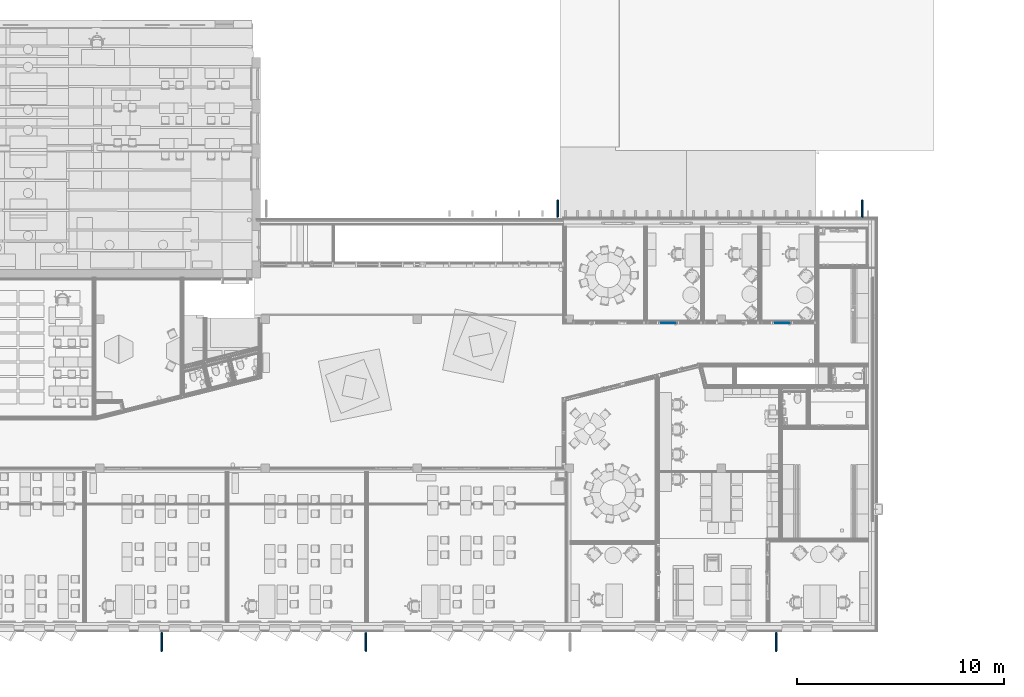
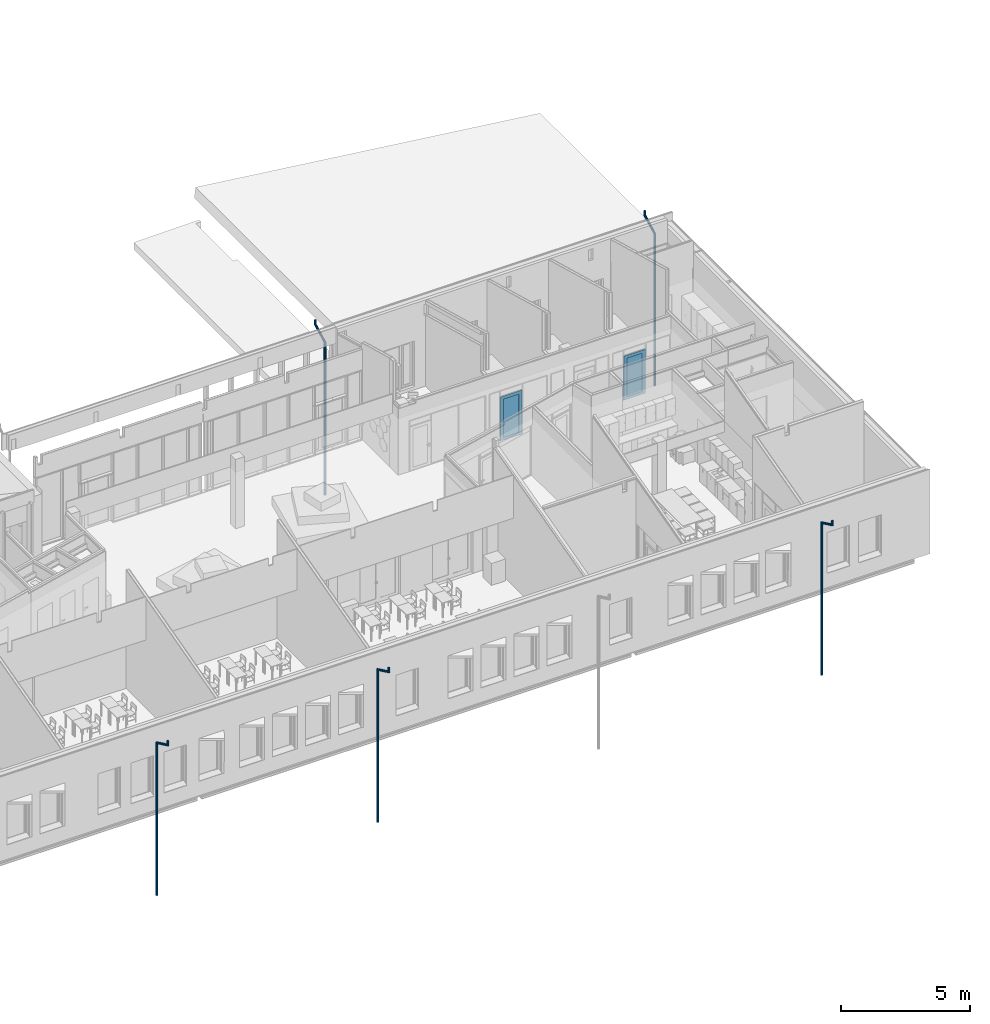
# One storey, part 9 of 153: 5 discrete accessories, 4 building element parts, 4 elements without a shape of their own.
"""IFC2X3 building model written with IfcOpenShell, lengths in millimetres."""

from ifc_helpers import new_model, entity, si_unit, converted_unit, derived_unit, money_unit, direction, frame, origin_with_axes, place, context, subcontext, project, spatial, open_shell, faceted_brep, surface_model, source, transform, mapped, material, type_object, element, aggregate, save


model = new_model("IFC2X3")

# Units and contexts
model_context = context("Model", 3, precision=0.01, world=origin_with_axes(), true_north=direction((0.0, 1.0)))
body_context = subcontext(model_context, "Body", "Model", "MODEL_VIEW")
ifc_project = project(units=[si_unit("LENGTHUNIT", "METRE", prefix="MILLI"), si_unit("AREAUNIT", "SQUARE_METRE"), si_unit("VOLUMEUNIT", "CUBIC_METRE"), converted_unit("PLANEANGLEUNIT", "DEGREE", entity("IfcPlaneAngleMeasure", 0.0174532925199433), si_unit("PLANEANGLEUNIT", "RADIAN"), dimensions=[0, 0, 0, 0, 0, 0, 0]), money_unit("EUR"), converted_unit("TIMEUNIT", "Year", entity("IfcTimeMeasure", 31557600.0), si_unit("TIMEUNIT", "SECOND"), dimensions=[0, 0, 1, 0, 0, 0, 0]), si_unit("MASSUNIT", "GRAM", prefix="KILO"), si_unit("THERMODYNAMICTEMPERATUREUNIT", "DEGREE_CELSIUS"), si_unit("LUMINOUSINTENSITYUNIT", "LUMEN"), si_unit("ENERGYUNIT", "JOULE", prefix="MEGA"), derived_unit("THERMALCONDUCTANCEUNIT", [(si_unit("POWERUNIT", "WATT"), 1), (si_unit("LENGTHUNIT", "METRE"), -1), (si_unit("THERMODYNAMICTEMPERATUREUNIT", "KELVIN"), -1)]), derived_unit("SPECIFICHEATCAPACITYUNIT", [(si_unit("ENERGYUNIT", "JOULE"), 1), (si_unit("MASSUNIT", "GRAM", prefix="KILO"), -1), (si_unit("THERMODYNAMICTEMPERATUREUNIT", "KELVIN"), -1)]), derived_unit("MASSDENSITYUNIT", [(si_unit("MASSUNIT", "GRAM", prefix="KILO"), 1), (si_unit("VOLUMEUNIT", "CUBIC_METRE"), -1)])], contexts=[model_context])

# Site, building, storey
site_placement = place(None, frame((0.0, 0.0, 8650.0), z_axis=(0.0, 0.0, 1.0), x_axis=(1.0, 0.0, 0.0)))
site = spatial("IfcSite", under=ifc_project, at=site_placement, Name="43301:001:0844", CompositionType="ELEMENT")
building_placement = place(site_placement, origin_with_axes())
building = spatial("IfcBuilding", under=site, at=building_placement, Name="Kuressaare Ametikooli tuulikute mehaanikute õppekorpus", CompositionType="ELEMENT")
storey_placement = place(building_placement, frame((0.0, 0.0, 4100.0), z_axis=(0.0, 0.0, 1.0), x_axis=(1.0, 0.0, 0.0)))
storey = spatial("IfcBuildingStorey", under=building, at=storey_placement, Name="2.korrus", CompositionType="ELEMENT", Elevation=4100.0)

# Discrete accessories
discrete_accessory_type = type_object("IfcDiscreteAccessoryType", Name="Downspout Complex 27")
shared_shape_1 = source(origin_with_axes(), body_context, "Body", "SurfaceModel", [
    surface_model("IfcShellBasedSurfaceModel", [(50.0, 0.0, 7000.949244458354), (46.19397662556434, -19.13417161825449, 7000.949244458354), (46.19397662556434, -19.13417161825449, 0.0), (50.0, 0.0, 0.0), (35.35533905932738, -35.35533905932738, 7000.949244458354), (35.35533905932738, -35.35533905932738, 0.0), (46.19397662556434, 19.13417161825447, 7000.949244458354), (46.19397662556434, 19.13417161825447, 0.0), (19.13417161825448, -46.19397662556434, 7000.949244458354), (19.13417161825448, -46.19397662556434, 0.0), (35.35533905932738, 35.35533905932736, 7000.949244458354), (35.35533905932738, 35.35533905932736, 0.0), (0.0, -50.0, 7000.949244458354), (0.0, -50.0, 0.0), (19.13417161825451, 46.19397662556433, 7000.949244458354), (19.13417161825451, 46.19397662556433, 0.0), (-19.13417161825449, -46.19397662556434, 7000.949244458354), (-19.13417161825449, -46.19397662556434, 0.0), (0.0, 50.0, 7000.949244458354), (0.0, 50.0, 0.0), (-35.35533905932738, -35.35533905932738, 7000.949244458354), (-35.35533905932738, -35.35533905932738, 0.0), (-19.13417161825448, 46.19397662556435, 7000.949244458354), (-19.13417161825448, 46.19397662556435, 0.0), (-46.19397662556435, -19.13417161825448, 7000.949244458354), (-46.19397662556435, -19.13417161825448, 0.0), (-35.35533905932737, 35.35533905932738, 7000.949244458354), (-35.35533905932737, 35.35533905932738, 0.0), (-50.0, 0.0, 7000.949244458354), (-50.0, 0.0, 0.0), (-46.19397662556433, 19.1341716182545, 7000.949244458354), (-46.19397662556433, 19.1341716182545, 0.0)], [open_shell([[[0, 1, 2, 3]], [[1, 4, 5, 2]], [[6, 0, 3, 7]], [[4, 8, 9, 5]], [[10, 6, 7, 11]], [[8, 12, 13, 9]], [[14, 10, 11, 15]], [[12, 16, 17, 13]], [[18, 14, 15, 19]], [[16, 20, 21, 17]], [[22, 18, 19, 23]], [[20, 24, 25, 21]], [[26, 22, 23, 27]], [[24, 28, 29, 25]], [[30, 26, 27, 31]], [[28, 30, 31, 29]]])]),
    surface_model("IfcShellBasedSurfaceModel", [(-50.0, -839.0000000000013, 7800.949244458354), (-46.19397662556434, -819.8658283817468, 7800.949244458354), (-46.19397662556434, -819.8658283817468, 7613.024377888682), (-50.0, -839.0000000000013, 7600.949244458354), (-35.35533905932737, -803.6446609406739, 7800.949244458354), (-35.35533905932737, -803.6446609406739, 7623.2611817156), (-46.19397662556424, 19.13417161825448, 7213.024377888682), (-49.9999999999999, 0.0, 7200.949244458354), (-46.19397662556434, -858.1341716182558, 7800.949244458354), (-46.19397662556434, -858.1341716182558, 7588.874111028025), (-19.13417161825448, -792.8060233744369, 7800.949244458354), (-19.13417161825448, -792.8060233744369, 7630.101195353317), (-35.35533905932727, 35.35533905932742, 7223.261181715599), (-46.19397662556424, 19.13417161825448, 7000.949244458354), (-49.9999999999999, 0.0, 7000.949244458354), (-46.19397662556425, -19.13417161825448, 7188.874111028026), (-35.35533905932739, -874.3553390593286, 7800.949244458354), (-35.35533905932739, -874.3553390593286, 7578.637307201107), (0.0, -789.0000000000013, 7800.949244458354), (0.0, -789.0000000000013, 7632.503088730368), (-19.13417161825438, 46.19397662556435, 7230.101195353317), (-35.35533905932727, 35.35533905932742, 7000.949244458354), (-46.19397662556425, -19.13417161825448, 7000.949244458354), (-35.35533905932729, -35.35533905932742, 7178.637307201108), (-19.13417161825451, -885.1939766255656, 7800.949244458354), (-19.13417161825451, -885.1939766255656, 7571.797293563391), (19.1341716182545, -792.8060233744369, 7800.949244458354), (19.1341716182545, -792.8060233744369, 7630.101195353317), (0.0, 50.00000000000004, 7232.503088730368), (-19.13417161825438, 46.19397662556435, 7000.949244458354), (-35.35533905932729, -35.35533905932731, 7000.949244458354), (-19.13417161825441, -46.19397662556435, 7171.797293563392), (0.0, -889.0000000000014, 7800.949244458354), (0.0, -889.0000000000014, 7569.395400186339), (35.35533905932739, -803.6446609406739, 7800.949244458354), (35.35533905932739, -803.6446609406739, 7623.2611817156), (19.1341716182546, 46.19397662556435, 7230.101195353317), (0.0, 50.00000000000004, 7000.949244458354), (-19.13417161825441, -46.19397662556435, 7000.949244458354), (0.0, -50.00000000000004, 7169.395400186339), (19.13417161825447, -885.1939766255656, 7800.949244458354), (19.13417161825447, -885.1939766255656, 7571.797293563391), (46.19397662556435, -819.8658283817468, 7800.949244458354), (46.19397662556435, -819.8658283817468, 7613.024377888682), (35.35533905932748, 35.35533905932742, 7223.261181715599), (19.1341716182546, 46.19397662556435, 7000.949244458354), (0.0, -50.00000000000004, 7000.949244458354), (19.13417161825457, -46.19397662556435, 7171.797293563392), (35.35533905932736, -874.3553390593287, 7800.949244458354), (35.35533905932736, -874.3553390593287, 7578.637307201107), (50.0, -839.0000000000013, 7800.949244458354), (50.0, -839.0000000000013, 7600.949244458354), (46.19397662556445, 19.13417161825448, 7213.024377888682), (35.35533905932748, 35.35533905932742, 7000.949244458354), (19.13417161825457, -46.19397662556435, 7000.949244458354), (35.35533905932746, -35.35533905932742, 7178.637307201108), (46.19397662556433, -858.1341716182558, 7800.949244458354), (46.19397662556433, -858.1341716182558, 7588.874111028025), (50.00000000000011, 0.0, 7200.949244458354), (46.19397662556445, 19.13417161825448, 7000.949244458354), (35.35533905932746, -35.35533905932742, 7000.949244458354), (46.19397662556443, -19.13417161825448, 7188.874111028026), (50.00000000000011, 0.0, 7000.949244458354), (46.19397662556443, -19.13417161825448, 7000.949244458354)], [open_shell([[[0, 1, 2, 3]], [[1, 4, 5, 2]], [[3, 2, 6, 7]], [[8, 0, 3, 9]], [[4, 10, 11, 5]], [[2, 5, 12, 6]], [[7, 6, 13, 14]], [[9, 3, 7, 15]], [[16, 8, 9, 17]], [[10, 18, 19, 11]], [[5, 11, 20, 12]], [[6, 12, 21, 13]], [[15, 7, 14, 22]], [[17, 9, 15, 23]], [[24, 16, 17, 25]], [[18, 26, 27, 19]], [[11, 19, 28, 20]], [[12, 20, 29, 21]], [[23, 15, 22, 30]], [[25, 17, 23, 31]], [[32, 24, 25, 33]], [[26, 34, 35, 27]], [[19, 27, 36, 28]], [[20, 28, 37, 29]], [[31, 23, 30, 38]], [[33, 25, 31, 39]], [[40, 32, 33, 41]], [[34, 42, 43, 35]], [[27, 35, 44, 36]], [[28, 36, 45, 37]], [[39, 31, 38, 46]], [[41, 33, 39, 47]], [[48, 40, 41, 49]], [[42, 50, 51, 43]], [[35, 43, 52, 44]], [[36, 44, 53, 45]], [[47, 39, 46, 54]], [[49, 41, 47, 55]], [[56, 48, 49, 57]], [[50, 56, 57, 51]], [[43, 51, 58, 52]], [[44, 52, 59, 53]], [[55, 47, 54, 60]], [[57, 49, 55, 61]], [[51, 57, 61, 58]], [[52, 58, 62, 59]], [[61, 55, 60, 63]], [[58, 61, 63, 62]]])]),
])
for number, where, z_axis, x_axis, name in (
    (1, (98859.97041568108, 8602.838490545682, -3966.646428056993), (0.0, 0.0, 1.0), (1.0, 0.0, 0.0), "SV püstik"),
    (2, (128569.0086055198, 8602.838490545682, -3966.646428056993), (0.0, 0.0, 1.0), (1.0, 0.0, 0.0), "SV püstik"),
    (3, (108737.3558498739, 8602.838490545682, -3966.646428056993), (0.0, 0.0, 1.0), (1.0, 0.0, 0.0), "SV püstik"),
):
    element("IfcDiscreteAccessory", number, at=place(storey_placement, frame(where, z_axis=z_axis, x_axis=x_axis)), inside=storey, type_object=discrete_accessory_type, Name=name, context=body_context, shape_type="MappedRepresentation", body=[
        mapped(shared_shape_1, transform((0.0, 0.0, 0.0))),
    ])
shared_shape_2 = source(origin_with_axes(), body_context, "Body", "SurfaceModel", [
    surface_model("IfcShellBasedSurfaceModel", [(-50.0, 0.0, 7000.949244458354), (-50.0, 0.0, 0.0), (-46.19397662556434, -19.13417161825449, 0.0), (-46.19397662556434, -19.13417161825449, 7000.949244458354), (-46.19397662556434, 19.13417161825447, 7000.949244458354), (-46.19397662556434, 19.13417161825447, 0.0), (-35.35533905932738, -35.35533905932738, 0.0), (-35.35533905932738, -35.35533905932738, 7000.949244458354), (-35.35533905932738, 35.35533905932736, 7000.949244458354), (-35.35533905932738, 35.35533905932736, 0.0), (-19.13417161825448, -46.19397662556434, 0.0), (-19.13417161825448, -46.19397662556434, 7000.949244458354), (-19.13417161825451, 46.19397662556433, 7000.949244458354), (-19.13417161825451, 46.19397662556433, 0.0), (0.0, -50.0, 0.0), (0.0, -50.0, 7000.949244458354), (0.0, 50.0, 7000.949244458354), (0.0, 50.0, 0.0), (19.13417161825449, -46.19397662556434, 0.0), (19.13417161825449, -46.19397662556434, 7000.949244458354), (19.13417161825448, 46.19397662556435, 7000.949244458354), (19.13417161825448, 46.19397662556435, 0.0), (35.35533905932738, -35.35533905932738, 0.0), (35.35533905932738, -35.35533905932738, 7000.949244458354), (35.35533905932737, 35.35533905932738, 7000.949244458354), (35.35533905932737, 35.35533905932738, 0.0), (46.19397662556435, -19.13417161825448, 0.0), (46.19397662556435, -19.13417161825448, 7000.949244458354), (46.19397662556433, 19.1341716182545, 7000.949244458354), (46.19397662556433, 19.1341716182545, 0.0), (50.0, 0.0, 0.0), (50.0, 0.0, 7000.949244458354)], [open_shell([[[0, 1, 2, 3]], [[4, 5, 1, 0]], [[3, 2, 6, 7]], [[8, 9, 5, 4]], [[7, 6, 10, 11]], [[12, 13, 9, 8]], [[11, 10, 14, 15]], [[16, 17, 13, 12]], [[15, 14, 18, 19]], [[20, 21, 17, 16]], [[19, 18, 22, 23]], [[24, 25, 21, 20]], [[23, 22, 26, 27]], [[28, 29, 25, 24]], [[27, 26, 30, 31]], [[31, 30, 29, 28]]])]),
    surface_model("IfcShellBasedSurfaceModel", [(50.0, -757.0224952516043, 7800.949244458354), (50.0, -757.0224952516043, 7600.949244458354), (46.19397662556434, -737.8883236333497, 7612.480025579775), (46.19397662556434, -737.8883236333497, 7800.949244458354), (46.19397662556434, -776.1566668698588, 7800.949244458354), (46.19397662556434, -776.1566668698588, 7589.418463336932), (49.99999999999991, 0.0, 7200.949244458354), (46.19397662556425, 19.13417161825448, 7212.480025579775), (35.35533905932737, -721.6671561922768, 7622.255349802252), (35.35533905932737, -721.6671561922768, 7800.949244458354), (35.35533905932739, -792.3778343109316, 7800.949244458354), (35.35533905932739, -792.3778343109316, 7579.643139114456), (46.19397662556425, -19.13417161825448, 7189.418463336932), (49.99999999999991, 0.0, 7000.949244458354), (46.19397662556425, 19.13417161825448, 7000.949244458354), (35.35533905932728, 35.35533905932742, 7222.255349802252), (19.13417161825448, -710.8285186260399, 7628.787012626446), (19.13417161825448, -710.8285186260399, 7800.949244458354), (19.13417161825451, -803.2164718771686, 7800.949244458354), (19.13417161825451, -803.2164718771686, 7573.111476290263), (35.35533905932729, -35.35533905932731, 7179.643139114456), (46.19397662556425, -19.13417161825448, 7000.949244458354), (35.35533905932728, 35.35533905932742, 7000.949244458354), (19.13417161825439, 46.19397662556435, 7228.787012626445), (0.0, -707.0224952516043, 7631.080627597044), (0.0, -707.0224952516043, 7800.949244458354), (0.0, -807.0224952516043, 7800.949244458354), (0.0, -807.0224952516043, 7570.817861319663), (19.13417161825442, -46.19397662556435, 7173.111476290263), (35.35533905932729, -35.35533905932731, 7000.949244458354), (19.13417161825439, 46.19397662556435, 7000.949244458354), (0.0, 50.00000000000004, 7231.080627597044), (-19.1341716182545, -710.8285186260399, 7628.787012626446), (-19.1341716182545, -710.8285186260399, 7800.949244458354), (-19.13417161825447, -803.2164718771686, 7800.949244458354), (-19.13417161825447, -803.2164718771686, 7573.111476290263), (0.0, -50.00000000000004, 7170.817861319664), (19.13417161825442, -46.19397662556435, 7000.949244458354), (0.0, 50.00000000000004, 7000.949244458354), (-19.13417161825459, 46.19397662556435, 7228.787012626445), (-35.35533905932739, -721.6671561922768, 7622.255349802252), (-35.35533905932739, -721.6671561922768, 7800.949244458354), (-35.35533905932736, -792.3778343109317, 7800.949244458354), (-35.35533905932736, -792.3778343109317, 7579.643139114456), (-19.13417161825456, -46.19397662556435, 7173.111476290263), (0.0, -50.00000000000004, 7000.949244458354), (-19.13417161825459, 46.19397662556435, 7000.949244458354), (-35.35533905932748, 35.35533905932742, 7222.255349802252), (-46.19397662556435, -737.8883236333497, 7612.480025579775), (-46.19397662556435, -737.8883236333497, 7800.949244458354), (-46.19397662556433, -776.1566668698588, 7800.949244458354), (-46.19397662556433, -776.1566668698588, 7589.418463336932), (-35.35533905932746, -35.35533905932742, 7179.643139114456), (-19.13417161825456, -46.19397662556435, 7000.949244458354), (-35.35533905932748, 35.35533905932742, 7000.949244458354), (-46.19397662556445, 19.13417161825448, 7212.480025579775), (-50.0, -757.0224952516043, 7600.949244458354), (-50.0, -757.0224952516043, 7800.949244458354), (-46.19397662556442, -19.13417161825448, 7189.418463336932), (-35.35533905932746, -35.35533905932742, 7000.949244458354), (-46.19397662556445, 19.13417161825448, 7000.949244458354), (-50.00000000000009, 0.0, 7200.949244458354), (-46.19397662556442, -19.13417161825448, 7000.949244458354), (-50.00000000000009, 0.0, 7000.949244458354)], [open_shell([[[0, 1, 2, 3]], [[4, 5, 1, 0]], [[1, 6, 7, 2]], [[3, 2, 8, 9]], [[10, 11, 5, 4]], [[5, 12, 6, 1]], [[6, 13, 14, 7]], [[2, 7, 15, 8]], [[9, 8, 16, 17]], [[18, 19, 11, 10]], [[11, 20, 12, 5]], [[12, 21, 13, 6]], [[7, 14, 22, 15]], [[8, 15, 23, 16]], [[17, 16, 24, 25]], [[26, 27, 19, 18]], [[19, 28, 20, 11]], [[20, 29, 21, 12]], [[15, 22, 30, 23]], [[16, 23, 31, 24]], [[25, 24, 32, 33]], [[34, 35, 27, 26]], [[27, 36, 28, 19]], [[28, 37, 29, 20]], [[23, 30, 38, 31]], [[24, 31, 39, 32]], [[33, 32, 40, 41]], [[42, 43, 35, 34]], [[35, 44, 36, 27]], [[36, 45, 37, 28]], [[31, 38, 46, 39]], [[32, 39, 47, 40]], [[41, 40, 48, 49]], [[50, 51, 43, 42]], [[43, 52, 44, 35]], [[44, 53, 45, 36]], [[39, 46, 54, 47]], [[40, 47, 55, 48]], [[49, 48, 56, 57]], [[57, 56, 51, 50]], [[51, 58, 52, 43]], [[52, 59, 53, 44]], [[47, 54, 60, 55]], [[48, 55, 61, 56]], [[56, 61, 58, 51]], [[58, 62, 59, 52]], [[55, 60, 63, 61]], [[61, 63, 62, 58]]])]),
])
for number, where, z_axis, x_axis, name in (
    (4, (118005.8841353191, 28747.04645944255, -3966.646428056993), (0.0, 0.0, 1.0), (-1.0, 0.0, 0.0), "SV püstik"),
    (5, (132734.971279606, 28747.04444958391, -3966.646428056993), (0.0, 0.0, 1.0), (-1.0, 0.0, 0.0), "SV püstik"),
):
    element("IfcDiscreteAccessory", number, at=place(storey_placement, frame(where, z_axis=z_axis, x_axis=x_axis)), inside=storey, type_object=discrete_accessory_type, Name=name, context=body_context, shape_type="MappedRepresentation", body=[
        mapped(shared_shape_2, transform((0.0, 0.0, 0.0))),
    ])

# Curtain wall, door, building element part
curtain_wall_type = type_object("IfcCurtainWallType", Name="Curtain Wall Type", PredefinedType="NOTDEFINED")
curtain_wall_1_placement = place(storey_placement, frame((123223.4159387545, 23599.06892395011, 7.152564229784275e-05), z_axis=(0.0, 0.0, 1.0), x_axis=(1.0, 0.0, 0.0)))
curtain_wall_1 = element("IfcCurtainWall", 6, at=curtain_wall_1_placement, inside=storey, type_object=curtain_wall_type, Name="PKF-1.2")
door_style = type_object("IfcDoorStyle", Name="133 x 2095 x 30", ConstructionType="NOTDEFINED", OperationType="SINGLE_SWING_LEFT", ParameterTakesPrecedence=False, Sizeable=False)
door_1_placement = place(curtain_wall_1_placement, frame((0.0, 0.0, 1049.999932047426), z_axis=(0.0, 0.0, 1.0), x_axis=(1.0, 0.0, 0.0)))
door_1 = element("IfcDoor", 7, at=door_1_placement, type_object=door_style, Name="PKU10,dB", OverallHeight=2070.0, OverallWidth=960.0)
aggregate(curtain_wall_1, [door_1])
ifc_material_1 = material(Name="Aluminium")
shared_shape_3 = source(origin_with_axes(), body_context, "Body", "Brep", [
    faceted_brep([(2441.957278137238, 10.00000897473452, 25.0), (2441.957278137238, 2080.000020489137, 25.0), (2441.957278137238, 2080.000020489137, 30.0), (2441.957278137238, 10.00000897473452, 30.0), (2396.957278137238, 10.00000897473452, 25.0), (2396.957278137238, 2035.000020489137, 25.0), (2396.957278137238, 2035.000020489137, 30.0), (2396.957278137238, 10.00000897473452, 30.0)], [[[0, 1, 2, 3]], [[0, 4, 5, 1]], [[1, 5, 6, 2]], [[3, 2, 6, 7]], [[4, 0, 3, 7]], [[5, 4, 7, 6]]]),
    faceted_brep([(1481.957230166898, 2080.000020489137, 25.0), (1526.957230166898, 2035.000020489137, 25.0), (1526.957230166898, 2035.000020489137, 30.0), (1481.957230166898, 2080.000020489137, 30.0), (2441.957278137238, 2080.000020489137, 25.0), (2396.957278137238, 2035.000020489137, 25.0), (2396.957278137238, 2035.000020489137, 30.0), (2441.957278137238, 2080.000020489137, 30.0)], [[[0, 1, 2, 3]], [[0, 4, 5, 1]], [[1, 5, 6, 2]], [[3, 2, 6, 7]], [[4, 0, 3, 7]], [[5, 4, 7, 6]]]),
    faceted_brep([(1481.957230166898, 10.00000897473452, 25.0), (1526.957230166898, 10.00000897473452, 25.0), (1526.957230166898, 10.00000897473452, 30.0), (1481.957230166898, 10.00000897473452, 30.0), (1481.957230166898, 2080.000020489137, 25.0), (1526.957230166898, 2035.000020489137, 25.0), (1526.957230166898, 2035.000020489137, 30.0), (1481.957230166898, 2080.000020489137, 30.0)], [[[0, 1, 2, 3]], [[0, 4, 5, 1]], [[1, 5, 6, 2]], [[3, 2, 6, 7]], [[4, 0, 3, 7]], [[5, 4, 7, 6]]]),
    faceted_brep([(2441.957278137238, 10.00000897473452, -25.0), (2441.957278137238, 2080.000020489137, -25.0), (2441.957278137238, 2080.000020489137, 25.0), (2441.957278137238, 10.00000897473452, 25.0), (2421.957278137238, 10.00000897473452, -25.0), (2421.957278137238, 2060.000020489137, -25.0), (2421.957278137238, 2060.000020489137, 25.0), (2421.957278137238, 10.00000897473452, 25.0)], [[[0, 1, 2, 3]], [[0, 4, 5, 1]], [[1, 5, 6, 2]], [[3, 2, 6, 7]], [[4, 0, 3, 7]], [[5, 4, 7, 6]]]),
    faceted_brep([(1481.957230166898, 2080.000020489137, -25.0), (1501.957230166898, 2060.000020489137, -25.0), (1501.957230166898, 2060.000020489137, 25.0), (1481.957230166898, 2080.000020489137, 25.0), (2441.957278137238, 2080.000020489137, -25.0), (2421.957278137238, 2060.000020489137, -25.0), (2421.957278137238, 2060.000020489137, 25.0), (2441.957278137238, 2080.000020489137, 25.0)], [[[0, 1, 2, 3]], [[0, 4, 5, 1]], [[1, 5, 6, 2]], [[3, 2, 6, 7]], [[4, 0, 3, 7]], [[5, 4, 7, 6]]]),
    faceted_brep([(1481.957230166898, 10.00000897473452, -25.0), (1501.957230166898, 10.00000897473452, -25.0), (1501.957230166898, 10.00000897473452, 25.0), (1481.957230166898, 10.00000897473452, 25.0), (1481.957230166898, 2080.000020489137, -25.0), (1501.957230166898, 2060.000020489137, -25.0), (1501.957230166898, 2060.000020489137, 25.0), (1481.957230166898, 2080.000020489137, 25.0)], [[[0, 1, 2, 3]], [[0, 4, 5, 1]], [[1, 5, 6, 2]], [[3, 2, 6, 7]], [[4, 0, 3, 7]], [[5, 4, 7, 6]]]),
    faceted_brep([(1461.9572435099, -4.999999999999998, -15.0), (2461.957262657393, -4.999999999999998, -15.0), (2461.957262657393, -4.999999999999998, 15.0), (1461.9572435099, -4.999999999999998, 15.0), (1481.957230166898, 10.0000089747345, -15.0), (2441.957278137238, 10.0000089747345, -15.0), (2441.957278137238, 10.0000089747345, 15.0), (1481.957230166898, 10.0000089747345, 15.0)], [[[0, 1, 2, 3]], [[0, 4, 5, 1]], [[1, 5, 6, 2]], [[3, 2, 6, 7]], [[4, 0, 3, 7]], [[5, 4, 7, 6]]]),
    faceted_brep([(2461.957262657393, -4.999999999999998, -15.0), (2461.957262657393, 2095.00000265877, -15.0), (2461.957262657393, 2095.00000265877, 15.0), (2461.957262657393, -4.999999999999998, 15.0), (2441.957278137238, 10.0000089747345, -15.0), (2441.957278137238, 2080.000020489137, -15.0), (2441.957278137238, 2080.000020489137, 15.0), (2441.957278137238, 10.0000089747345, 15.0)], [[[0, 1, 2, 3]], [[0, 4, 5, 1]], [[1, 5, 6, 2]], [[3, 2, 6, 7]], [[4, 0, 3, 7]], [[5, 4, 7, 6]]]),
    faceted_brep([(2461.957262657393, 2095.00000265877, -15.0), (1461.9572435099, 2095.00000265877, -15.0), (1461.9572435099, 2095.00000265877, 15.0), (2461.957262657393, 2095.00000265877, 15.0), (2441.957278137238, 2080.000020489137, -15.0), (1481.957230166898, 2080.000020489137, -15.0), (1481.957230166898, 2080.000020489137, 15.0), (2441.957278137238, 2080.000020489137, 15.0)], [[[0, 1, 2, 3]], [[0, 4, 5, 1]], [[1, 5, 6, 2]], [[3, 2, 6, 7]], [[4, 0, 3, 7]], [[5, 4, 7, 6]]]),
    faceted_brep([(1461.9572435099, 2095.00000265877, -15.0), (1461.9572435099, -4.999999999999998, -15.0), (1461.9572435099, -4.999999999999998, 15.0), (1461.9572435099, 2095.00000265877, 15.0), (1481.957230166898, 2080.000020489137, -15.0), (1481.957230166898, 10.0000089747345, -15.0), (1481.957230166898, 10.0000089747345, 15.0), (1481.957230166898, 2080.000020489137, 15.0)], [[[0, 1, 2, 3]], [[0, 4, 5, 1]], [[1, 5, 6, 2]], [[3, 2, 6, 7]], [[4, 0, 3, 7]], [[5, 4, 7, 6]]]),
    faceted_brep([(1621.957230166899, 130.0000089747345, 24.99999999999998), (1621.957230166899, 130.0000089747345, -25.00000000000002), (1621.957230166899, 1940.000020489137, -25.00000000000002), (1621.957230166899, 1940.000020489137, 24.99999999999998), (1501.957230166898, 10.0000089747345, 24.99999999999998), (1501.957230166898, 10.0000089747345, -25.00000000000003), (1501.957230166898, 2060.000020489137, -25.00000000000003), (1501.957230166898, 2060.000020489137, 24.99999999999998)], [[[0, 1, 2, 3]], [[4, 5, 1, 0]], [[1, 5, 6, 2]], [[3, 2, 6, 7]], [[0, 3, 7, 4]], [[7, 6, 5, 4]]]),
    faceted_brep([(2421.957278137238, 10.0000089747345, 25.00000000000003), (2421.957278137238, 10.0000089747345, -24.99999999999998), (2421.957278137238, 2060.000020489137, -24.99999999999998), (2421.957278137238, 2060.000020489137, 25.00000000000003), (2301.957278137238, 130.0000089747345, 25.00000000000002), (2301.957278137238, 130.0000089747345, -24.99999999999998), (2301.957278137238, 1940.000020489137, -24.99999999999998), (2301.957278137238, 1940.000020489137, 25.00000000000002)], [[[0, 1, 2, 3]], [[4, 5, 1, 0]], [[1, 5, 6, 2]], [[3, 2, 6, 7]], [[0, 3, 7, 4]], [[7, 6, 5, 4]]]),
    faceted_brep([(2421.957278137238, 10.0000089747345, 25.00000000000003), (2421.957278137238, 10.0000089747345, -24.99999999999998), (2301.957278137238, 130.0000089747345, -24.99999999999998), (2301.957278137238, 130.0000089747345, 25.00000000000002), (1501.957230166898, 10.0000089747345, 24.99999999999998), (1501.957230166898, 10.0000089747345, -25.00000000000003), (1621.957230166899, 130.0000089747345, -25.00000000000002), (1621.957230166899, 130.0000089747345, 24.99999999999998)], [[[0, 1, 2, 3]], [[4, 5, 1, 0]], [[1, 5, 6, 2]], [[3, 2, 6, 7]], [[0, 3, 7, 4]], [[7, 6, 5, 4]]]),
    faceted_brep([(1501.957230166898, 2060.000020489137, 24.99999999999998), (1501.957230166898, 2060.000020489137, -25.00000000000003), (1621.957230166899, 1940.000020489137, -25.00000000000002), (1621.957230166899, 1940.000020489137, 24.99999999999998), (2421.957278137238, 2060.000020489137, 25.00000000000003), (2421.957278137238, 2060.000020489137, -24.99999999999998), (2301.957278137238, 1940.000020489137, -24.99999999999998), (2301.957278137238, 1940.000020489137, 25.00000000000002)], [[[0, 1, 2, 3]], [[4, 5, 1, 0]], [[1, 5, 6, 2]], [[3, 2, 6, 7]], [[0, 3, 7, 4]], [[7, 6, 5, 4]]]),
])
building_element_part_1_placement = place(door_1_placement, origin_with_axes())
building_element_part_1 = element("IfcBuildingElementPart", 8, at=building_element_part_1_placement, material=ifc_material_1, Name="Aluminium", context=body_context, shape_type="MappedRepresentation", body=[
    mapped(shared_shape_3, transform((-1841.304838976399, 0.0, -1050.000003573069), x_axis=(1.0, 0.0, 0.0), y_axis=(0.0, 0.0, 1.0), z_axis=(0.0, -1.0, 0.0))),
])

curtain_wall_2_placement = place(storey_placement, frame((128158.0683354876, 23599.06892395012, 7.152564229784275e-05), z_axis=(0.0, 0.0, 1.0), x_axis=(1.0, 0.0, 0.0)))
curtain_wall_2 = element("IfcCurtainWall", 9, at=curtain_wall_2_placement, inside=storey, type_object=curtain_wall_type, Name="PKF1.5")
door_2_placement = place(curtain_wall_2_placement, frame((579.3476032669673, 0.0, 1049.999932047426), z_axis=(0.0, 0.0, 1.0), x_axis=(1.0, 0.0, 0.0)))
door_2 = element("IfcDoor", 10, at=door_2_placement, type_object=door_style, Name="PKU10,dB", OverallHeight=2070.0, OverallWidth=960.0)
aggregate(curtain_wall_2, [door_2])
building_element_part_2_placement = place(door_2_placement, origin_with_axes())
building_element_part_2 = element("IfcBuildingElementPart", 11, at=building_element_part_2_placement, material=ifc_material_1, Name="Aluminium", context=body_context, shape_type="MappedRepresentation", body=[
    mapped(shared_shape_3, transform((-1841.304838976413, 0.0, -1050.000003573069), x_axis=(1.0, 0.0, 0.0), y_axis=(0.0, 0.0, 1.0), z_axis=(0.0, -1.0, 0.0))),
])

# Building element part
ifc_material_2 = material(Name="Klaas")
shared_shape_4 = source(origin_with_axes(), body_context, "Body", "Brep", [
    faceted_brep([(1621.957230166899, 130.0000089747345, 15.0), (1621.957230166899, 130.0000089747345, -0.9999999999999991), (2301.957278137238, 130.0000089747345, -0.9999999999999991), (2301.957278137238, 130.0000089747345, 15.0), (1621.957230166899, 1940.000020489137, 15.0), (1621.957230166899, 1940.000020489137, -0.9999999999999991), (2301.957278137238, 1940.000020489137, -0.9999999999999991), (2301.957278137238, 1940.000020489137, 15.0)], [[[0, 1, 2, 3]], [[4, 5, 1, 0]], [[1, 5, 6, 2]], [[3, 2, 6, 7]], [[0, 3, 7, 4]], [[7, 6, 5, 4]]]),
])
building_element_part_3_placement = place(door_1_placement, origin_with_axes())
building_element_part_3 = element("IfcBuildingElementPart", 12, at=building_element_part_3_placement, material=ifc_material_2, Name="Klaas", context=body_context, shape_type="MappedRepresentation", body=[
    mapped(shared_shape_4, transform((-1841.304838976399, 0.0, -1050.000003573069), x_axis=(1.0, 0.0, 0.0), y_axis=(0.0, 0.0, 1.0), z_axis=(0.0, -1.0, 0.0))),
])

aggregate(door_1, [building_element_part_3, building_element_part_1])

building_element_part_4_placement = place(door_2_placement, origin_with_axes())
building_element_part_4 = element("IfcBuildingElementPart", 13, at=building_element_part_4_placement, material=ifc_material_2, Name="Klaas", context=body_context, shape_type="MappedRepresentation", body=[
    mapped(shared_shape_4, transform((-1841.304838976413, 0.0, -1050.000003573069), x_axis=(1.0, 0.0, 0.0), y_axis=(0.0, 0.0, 1.0), z_axis=(0.0, -1.0, 0.0))),
])

aggregate(door_2, [building_element_part_2, building_element_part_4])

save(model, "model.ifc")
